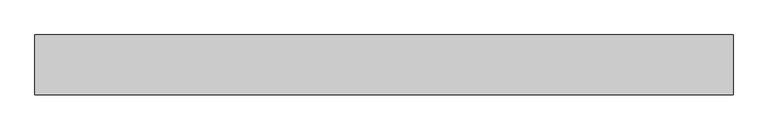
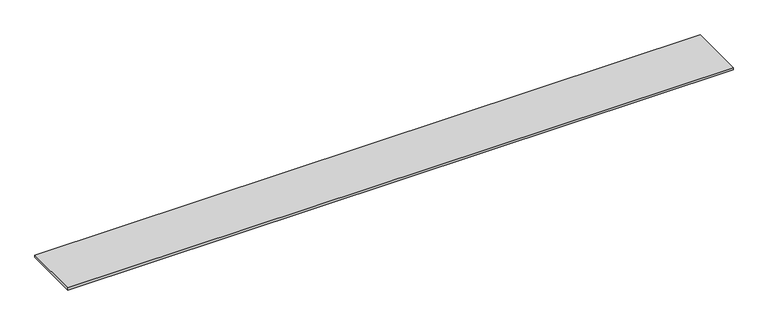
"""IFC4 building model written with IfcOpenShell, lengths in millimetres: furniture geometry, Bancada_balcao : Bancada cantina."""

from ifc_helpers import new_model, si_unit, frame, origin, place, context, project, spatial, polyline, outline, extrude, source, transform, mapped, element, save


def furniture_083d0adb(model_context):
    return source(origin(), model_context, "Body", "SweptSolid", [
        extrude(outline(polyline([(2965.1068716, 0.0), (-2875.7062187, 0.0), (-2875.7062187, 500.0), (2965.1068716, 500.0), (2965.1068716, 0.0)])), frame((0.0, 0.0, 880.0), z_axis=(0.0, 0.0, 1.0), x_axis=(1.0, 0.0, 0.0)), (0.0, 0.0, 1.0), 20.0),
    ])


if __name__ == "__main__":
    model = new_model("IFC4")
    model_context = context("Model", 3, world=origin())
    ifc_project = project(units=[si_unit("LENGTHUNIT", "METRE", prefix="MILLI")], contexts=[model_context])
    site = spatial("IfcSite", under=ifc_project)
    building = spatial("IfcBuilding", under=site)
    placement = place(None, origin())
    furniture_shape = furniture_083d0adb(model_context)
    element("IfcFurniture", 1, ObjectType="Bancada_balcao : Bancada cantina", at=placement, inside=building, context=model_context, shape_type="MappedRepresentation", body=[
        mapped(furniture_shape, transform((0.0, 0.0, 0.0), x_axis=(1.0, 0.0, 0.0), y_axis=(0.0, 1.0, 0.0), z_axis=(0.0, 0.0, 1.0))),
    ])
    save(model, "model.ifc")
